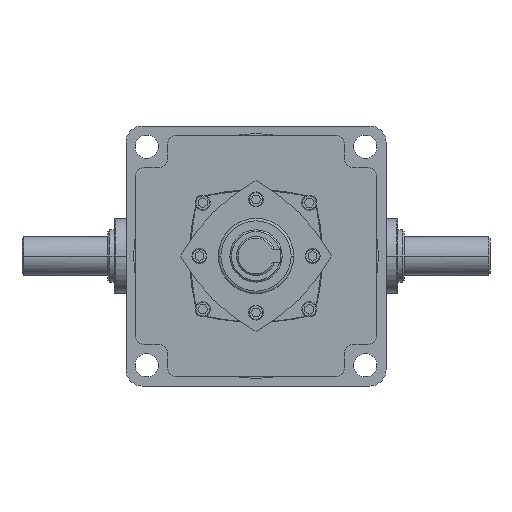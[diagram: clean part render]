
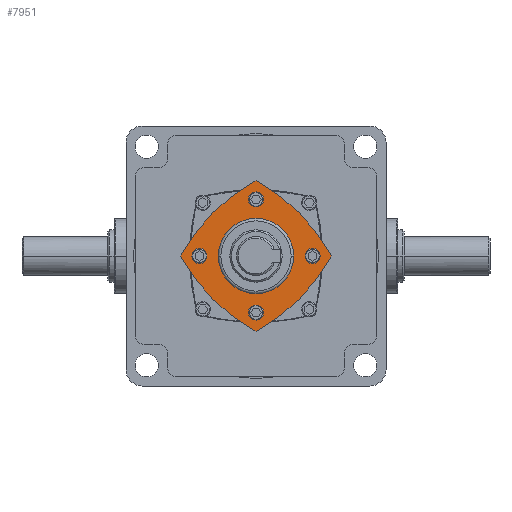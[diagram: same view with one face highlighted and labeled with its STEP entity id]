
A CAD part, front view. The second image highlights one B-rep face of the part: STEP entity #7951.
In plain terms, the highlighted planar face has unit normal (0, -1, 0).
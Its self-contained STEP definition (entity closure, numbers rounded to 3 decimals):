
#36 = DIRECTION ( 'NONE',  ( 0., 0., -1. ) ) ;
#342 = EDGE_LOOP ( 'NONE', ( #54299, #24214, #40927, #41464 ) ) ;
#803 = CARTESIAN_POINT ( 'NONE',  ( -29., -83.49, 0. ) ) ;
#1266 = DIRECTION ( 'NONE',  ( 0., 0., -1. ) ) ;
#1765 = DIRECTION ( 'NONE',  ( 0., -1., 0. ) ) ;
#3379 = EDGE_CURVE ( 'NONE', #62896, #36145, #9806, .T. ) ;
#4678 = DIRECTION ( 'NONE',  ( -1., 0., 0. ) ) ;
#4682 = DIRECTION ( 'NONE',  ( 0., 0., -1. ) ) ;
#4898 = CARTESIAN_POINT ( 'NONE',  ( 33.996, -83.49, -33.996 ) ) ;
#5189 = CARTESIAN_POINT ( 'NONE',  ( 0., -83.49, 21.75 ) ) ;
#5329 = EDGE_CURVE ( 'NONE', #19197, #60600, #41526, .T. ) ;
#6032 = FACE_BOUND ( 'NONE', #61759, .T. ) ;
#6592 = CARTESIAN_POINT ( 'NONE',  ( 0., -83.49, 0. ) ) ;
#7951 = ADVANCED_FACE ( 'NONE', ( #48085, #6032, #30528, #39682, #26723, #9083 ), #38631, .T. ) ;
#8778 = ORIENTED_EDGE ( 'NONE', *, *, #10675, .F. ) ;
#9083 = FACE_BOUND ( 'NONE', #39995, .T. ) ;
#9806 = CIRCLE ( 'NONE', #62885, 2.9 ) ;
#10602 = DIRECTION ( 'NONE',  ( 0., -1., 0. ) ) ;
#10675 = EDGE_CURVE ( 'NONE', #36825, #62412, #12993, .T. ) ;
#11277 = DIRECTION ( 'NONE',  ( 0., -1., 0. ) ) ;
#12138 = DIRECTION ( 'NONE',  ( 0., -1., 0. ) ) ;
#12793 = EDGE_CURVE ( 'NONE', #40258, #35652, #17375, .T. ) ;
#12870 = AXIS2_PLACEMENT_3D ( 'NONE', #6592, #11277, #40574 ) ;
#12924 = AXIS2_PLACEMENT_3D ( 'NONE', #5189, #39393, #39178 ) ;
#12993 = CIRCLE ( 'NONE', #26222, 2.9 ) ;
#14011 = EDGE_CURVE ( 'NONE', #60356, #37736, #16443, .T. ) ;
#14080 = DIRECTION ( 'NONE',  ( 0., -1., 0. ) ) ;
#14343 = CARTESIAN_POINT ( 'NONE',  ( -33.996, -83.49, 33.996 ) ) ;
#14388 = CARTESIAN_POINT ( 'NONE',  ( 21.75, -83.49, -2.9 ) ) ;
#14479 = DIRECTION ( 'NONE',  ( 0., -1., 0. ) ) ;
#14900 = DIRECTION ( 'NONE',  ( 0., -1., 0. ) ) ;
#16076 = DIRECTION ( 'NONE',  ( -1., 0., 0. ) ) ;
#16258 = AXIS2_PLACEMENT_3D ( 'NONE', #43351, #28206, #42932 ) ;
#16443 = CIRCLE ( 'NONE', #23861, 71.583 ) ;
#16470 = ORIENTED_EDGE ( 'NONE', *, *, #3379, .F. ) ;
#16915 = AXIS2_PLACEMENT_3D ( 'NONE', #31002, #12138, #55573 ) ;
#17260 = ORIENTED_EDGE ( 'NONE', *, *, #42221, .F. ) ;
#17322 = CARTESIAN_POINT ( 'NONE',  ( 0., -83.49, -18.85 ) ) ;
#17375 = CIRCLE ( 'NONE', #20095, 71.583 ) ;
#17836 = DIRECTION ( 'NONE',  ( 0., -1., 0. ) ) ;
#18941 = CARTESIAN_POINT ( 'NONE',  ( -2.9, -83.49, 21.75 ) ) ;
#19197 = VERTEX_POINT ( 'NONE', #27744 ) ;
#20031 = CARTESIAN_POINT ( 'NONE',  ( 0., -83.49, 21.75 ) ) ;
#20095 = AXIS2_PLACEMENT_3D ( 'NONE', #14343, #29355, #36 ) ;
#20650 = DIRECTION ( 'NONE',  ( 0., 0., 1. ) ) ;
#21262 = AXIS2_PLACEMENT_3D ( 'NONE', #38849, #14479, #4678 ) ;
#22444 = EDGE_LOOP ( 'NONE', ( #22692, #17260 ) ) ;
#22692 = ORIENTED_EDGE ( 'NONE', *, *, #5329, .F. ) ;
#22872 = EDGE_CURVE ( 'NONE', #36145, #62896, #23865, .T. ) ;
#23239 = CARTESIAN_POINT ( 'NONE',  ( 21.75, -83.49, 2.9 ) ) ;
#23494 = DIRECTION ( 'NONE',  ( 0., -1., 0. ) ) ;
#23731 = VERTEX_POINT ( 'NONE', #23239 ) ;
#23861 = AXIS2_PLACEMENT_3D ( 'NONE', #4898, #39076, #4682 ) ;
#23865 = CIRCLE ( 'NONE', #21262, 2.9 ) ;
#23965 = CARTESIAN_POINT ( 'NONE',  ( 0., -83.49, 0. ) ) ;
#24214 = ORIENTED_EDGE ( 'NONE', *, *, #12793, .T. ) ;
#24323 = CARTESIAN_POINT ( 'NONE',  ( 21.75, -83.49, 0. ) ) ;
#25414 = CARTESIAN_POINT ( 'NONE',  ( -14.5, -83.49, 0. ) ) ;
#26222 = AXIS2_PLACEMENT_3D ( 'NONE', #20031, #14900, #44813 ) ;
#26723 = FACE_BOUND ( 'NONE', #40126, .T. ) ;
#27102 = CIRCLE ( 'NONE', #48360, 2.9 ) ;
#27209 = CARTESIAN_POINT ( 'NONE',  ( 0., -83.49, -29. ) ) ;
#27744 = CARTESIAN_POINT ( 'NONE',  ( -24.65, -83.49, 0. ) ) ;
#28174 = EDGE_CURVE ( 'NONE', #37736, #40258, #62573, .T. ) ;
#28206 = DIRECTION ( 'NONE',  ( 0., -1., 0. ) ) ;
#29355 = DIRECTION ( 'NONE',  ( 0., -1., 0. ) ) ;
#29931 = DIRECTION ( 'NONE',  ( 0., 0., -1. ) ) ;
#30491 = ORIENTED_EDGE ( 'NONE', *, *, #61054, .F. ) ;
#30528 = FACE_BOUND ( 'NONE', #34710, .T. ) ;
#30580 = DIRECTION ( 'NONE',  ( 0., -1., 0. ) ) ;
#31002 = CARTESIAN_POINT ( 'NONE',  ( 33.996, -83.49, 33.996 ) ) ;
#31192 = EDGE_CURVE ( 'NONE', #43849, #46737, #41960, .T. ) ;
#33266 = ORIENTED_EDGE ( 'NONE', *, *, #34343, .F. ) ;
#33554 = AXIS2_PLACEMENT_3D ( 'NONE', #37280, #17836, #41777 ) ;
#33907 = CARTESIAN_POINT ( 'NONE',  ( -18.85, -83.49, 0. ) ) ;
#33985 = ORIENTED_EDGE ( 'NONE', *, *, #31192, .F. ) ;
#34343 = EDGE_CURVE ( 'NONE', #46737, #43849, #56480, .T. ) ;
#34710 = EDGE_LOOP ( 'NONE', ( #33985, #33266 ) ) ;
#35652 = VERTEX_POINT ( 'NONE', #46154 ) ;
#36145 = VERTEX_POINT ( 'NONE', #17322 ) ;
#36727 = AXIS2_PLACEMENT_3D ( 'NONE', #24323, #23494, #39037 ) ;
#36825 = VERTEX_POINT ( 'NONE', #44959 ) ;
#37280 = CARTESIAN_POINT ( 'NONE',  ( -21.75, -83.49, 0. ) ) ;
#37736 = VERTEX_POINT ( 'NONE', #803 ) ;
#37838 = DIRECTION ( 'NONE',  ( 0., -1., 0. ) ) ;
#38390 = CIRCLE ( 'NONE', #33554, 2.9 ) ;
#38631 = PLANE ( 'NONE',  #16258 ) ;
#38758 = ORIENTED_EDGE ( 'NONE', *, *, #40635, .F. ) ;
#38849 = CARTESIAN_POINT ( 'NONE',  ( 0., -83.49, -21.75 ) ) ;
#39037 = DIRECTION ( 'NONE',  ( 0., 0., -1. ) ) ;
#39076 = DIRECTION ( 'NONE',  ( 0., -1., 0. ) ) ;
#39178 = DIRECTION ( 'NONE',  ( 1., 0., 0. ) ) ;
#39393 = DIRECTION ( 'NONE',  ( 0., -1., 0. ) ) ;
#39682 = FACE_OUTER_BOUND ( 'NONE', #342, .T. ) ;
#39869 = CARTESIAN_POINT ( 'NONE',  ( -21.75, -83.49, 0. ) ) ;
#39995 = EDGE_LOOP ( 'NONE', ( #56277, #16470 ) ) ;
#40126 = EDGE_LOOP ( 'NONE', ( #30491, #8778 ) ) ;
#40212 = ORIENTED_EDGE ( 'NONE', *, *, #62417, .F. ) ;
#40258 = VERTEX_POINT ( 'NONE', #27209 ) ;
#40366 = CARTESIAN_POINT ( 'NONE',  ( 21.75, -83.49, 0. ) ) ;
#40547 = EDGE_CURVE ( 'NONE', #35652, #60356, #43127, .T. ) ;
#40574 = DIRECTION ( 'NONE',  ( 1., 0., 0. ) ) ;
#40635 = EDGE_CURVE ( 'NONE', #23731, #48721, #27102, .T. ) ;
#40927 = ORIENTED_EDGE ( 'NONE', *, *, #40547, .T. ) ;
#41446 = CIRCLE ( 'NONE', #36727, 2.9 ) ;
#41464 = ORIENTED_EDGE ( 'NONE', *, *, #14011, .T. ) ;
#41526 = CIRCLE ( 'NONE', #49789, 2.9 ) ;
#41777 = DIRECTION ( 'NONE',  ( 0., 0., 1. ) ) ;
#41960 = CIRCLE ( 'NONE', #12870, 14.5 ) ;
#42221 = EDGE_CURVE ( 'NONE', #60600, #19197, #38390, .T. ) ;
#42750 = DIRECTION ( 'NONE',  ( 1., 0., 0. ) ) ;
#42932 = DIRECTION ( 'NONE',  ( 1., 0., 0. ) ) ;
#43127 = CIRCLE ( 'NONE', #59428, 71.583 ) ;
#43351 = CARTESIAN_POINT ( 'NONE',  ( 29., -83.49, 0. ) ) ;
#43849 = VERTEX_POINT ( 'NONE', #63326 ) ;
#44813 = DIRECTION ( 'NONE',  ( 1., 0., 0. ) ) ;
#44959 = CARTESIAN_POINT ( 'NONE',  ( 2.9, -83.49, 21.75 ) ) ;
#45367 = CARTESIAN_POINT ( 'NONE',  ( 0., -83.49, -21.75 ) ) ;
#46154 = CARTESIAN_POINT ( 'NONE',  ( 29., -83.49, 0. ) ) ;
#46579 = CARTESIAN_POINT ( 'NONE',  ( 0., -83.49, -24.65 ) ) ;
#46737 = VERTEX_POINT ( 'NONE', #25414 ) ;
#46979 = CIRCLE ( 'NONE', #12924, 2.9 ) ;
#48085 = FACE_BOUND ( 'NONE', #22444, .T. ) ;
#48360 = AXIS2_PLACEMENT_3D ( 'NONE', #40366, #30580, #1266 ) ;
#48721 = VERTEX_POINT ( 'NONE', #14388 ) ;
#49789 = AXIS2_PLACEMENT_3D ( 'NONE', #39869, #10602, #20650 ) ;
#49875 = AXIS2_PLACEMENT_3D ( 'NONE', #23965, #37838, #42750 ) ;
#50459 = CARTESIAN_POINT ( 'NONE',  ( 0., -83.49, 29. ) ) ;
#54299 = ORIENTED_EDGE ( 'NONE', *, *, #28174, .T. ) ;
#55573 = DIRECTION ( 'NONE',  ( 0., 0., -1. ) ) ;
#56277 = ORIENTED_EDGE ( 'NONE', *, *, #22872, .F. ) ;
#56480 = CIRCLE ( 'NONE', #49875, 14.5 ) ;
#59428 = AXIS2_PLACEMENT_3D ( 'NONE', #62829, #14080, #29931 ) ;
#60356 = VERTEX_POINT ( 'NONE', #50459 ) ;
#60600 = VERTEX_POINT ( 'NONE', #33907 ) ;
#61054 = EDGE_CURVE ( 'NONE', #62412, #36825, #46979, .T. ) ;
#61759 = EDGE_LOOP ( 'NONE', ( #38758, #40212 ) ) ;
#62412 = VERTEX_POINT ( 'NONE', #18941 ) ;
#62417 = EDGE_CURVE ( 'NONE', #48721, #23731, #41446, .T. ) ;
#62573 = CIRCLE ( 'NONE', #16915, 71.583 ) ;
#62829 = CARTESIAN_POINT ( 'NONE',  ( -33.996, -83.49, -33.996 ) ) ;
#62885 = AXIS2_PLACEMENT_3D ( 'NONE', #45367, #1765, #16076 ) ;
#62896 = VERTEX_POINT ( 'NONE', #46579 ) ;
#63326 = CARTESIAN_POINT ( 'NONE',  ( 14.5, -83.49, 0. ) ) ;
